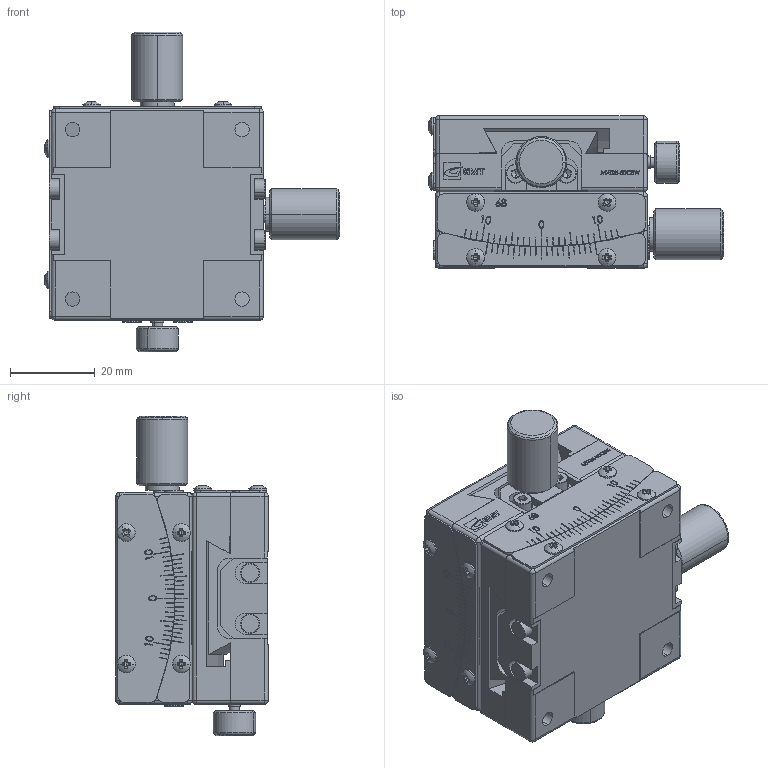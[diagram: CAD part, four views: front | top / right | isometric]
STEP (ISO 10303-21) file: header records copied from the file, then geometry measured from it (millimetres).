
FILE_DESCRIPTION (( 'STEP AP203' ), '1' );
FILE_NAME ('MYG5-50CS-(«¬¿ý).STEP', '2013-10-15T08:56:58', ( '' ), ( '' ), 'SwSTEP 2.0', 'SolidWorks 2013', '' );
FILE_SCHEMA (( 'CONFIG_CONTROL_DESIGN' ));
Length unit declared in the file: millimetre
Products named in the file (8): SC2.5B006-4^MXG5-68CS-(型錄); MXG5-68CS-(型錄); Group3^MXG5-50CS-(型錄); Group2^MXG5-50CS-(型錄); MXG5-50CS-(型錄); MYG5-50CS-(型錄); Group1^MXG5-68CS-(型錄); Group2^MXG5-68CS-(型錄)
Assembly tree (7 placements, depth 3):
  MYG5-50CS-(型錄)
    MXG5-68CS-(型錄)
      Group1^MXG5-68CS-(型錄)
      Group2^MXG5-68CS-(型錄)
      SC2.5B006-4^MXG5-68CS-(型錄)
    MXG5-50CS-(型錄)
      Group3^MXG5-50CS-(型錄)
      Group2^MXG5-50CS-(型錄)
Bounding box: 69.63 x 36 x 75.47 mm (x, y, z)
Volume: 89526.8 mm3; surface area: 36040.7 mm2
Topology: 5 solids, 5 shells, 2579 faces, 6700 edges, 4345 vertices
Faces by surface type: plane 1669, bspline 411, cylinder 328, cone 113, sphere 32, torus 26
Entity records: 101490 total; most frequent: CARTESIAN_POINT 39891, ORIENTED_EDGE 13284, DIRECTION 11100, EDGE_CURVE 6642, VECTOR 4630, LINE 4630, VERTEX_POINT 4345, AXIS2_PLACEMENT_3D 3235
